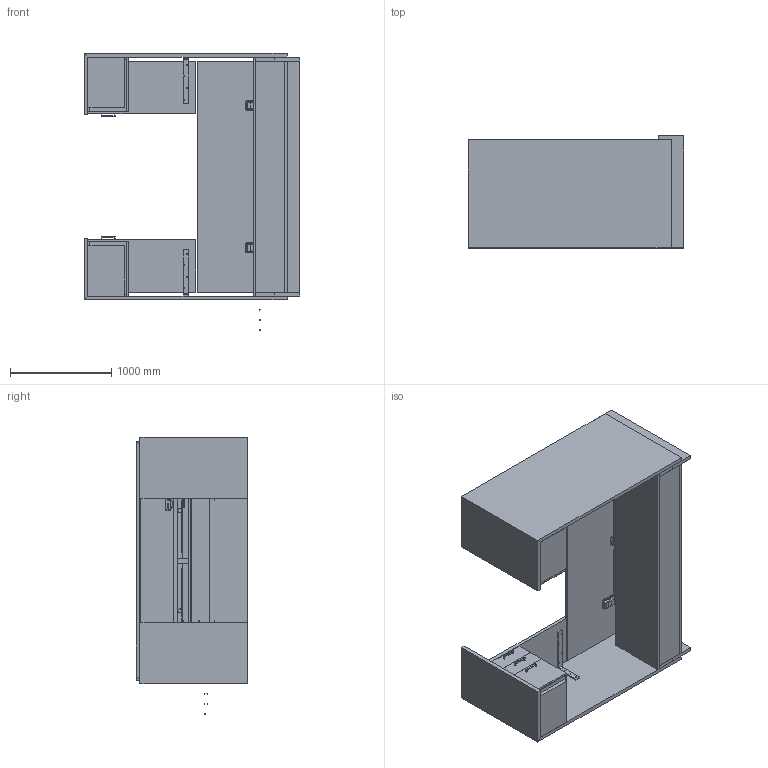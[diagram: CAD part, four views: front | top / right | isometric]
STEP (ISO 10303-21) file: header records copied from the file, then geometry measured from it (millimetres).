
FILE_DESCRIPTION(/* description */ ('','CAx-IF Rec.Pracs.---Representation and Presentation of Product Manufacturing Information (PMI)---4.0---2014-10-13'),/* implementation_level */ '2;1');
FILE_NAME(/* name */ 'WORKSTATION_FOUNDATION 2.stp',/* time_stamp */ '2024-12-08T10:30:24-05:00',/* author */ ('mbowman'),/* organization */ (''),/* preprocessor_version */ 'ST-DEVELOPER v19.2',/* originating_system */ 'Autodesk Inventor 2023',/* authorisation */ '');
FILE_SCHEMA (('AP242_MANAGED_MODEL_BASED_3D_ENGINEERING_MIM_LF { 1 0 10303 442 1 1 4 }'));
Products named in the file (26): FOUNDATION^OPEN OFFICE 1_LIFT TOP-SOLID ASSEMBLY; FOUNDATION^OPEN OFFICE 1_43.5x93 FRONT TRANSACTION-PARTS SOLID; FOUNDATION^OPEN OFFICE 1_42x79x24 RIGHT GALLERY WALL-PARTS SOLID; FOUNDATION^OPEN OFFICE 1_42x79x24 LEFT GALLERY WALL-PARTS SOLID; FOUNDATION^OPEN OFFICE 1_12x29x93 WIRE WALL-PARTS SOLID; FOUNDATION^OPEN OFFICE 1_12.94x89.94-TACKBOARD; FOUNDATION^PEDESTAL_LETTER BBF 22D-SOLID ASSEMBLY; FOUNDATION^PEDESTAL_LETTER BBF 22D-PARTS SOLID; FOUNDATION^PEDESTAL_LETTER FF 22D-SOLID ASSEMBLY; FOUNDATION^PEDESTAL_LETTER FF 22D-PARTS SOLID; SCHWINN 22334 PULL; FOUNDATION^PEDESTAL_PLINTH-14.25x21.5; dl5nc_without_bracket_STEP; dl5nc_without_bracket_STEP_1; DL5NC_OP; STANDART_MOTORHUS1_DL5; FOUNDATION^WORKSURFACES_LIFT TOP-90x28.5; FOUNDATION^WORKSURFACES_FIXED RETURN TOP-42x20.5; CANTILEVER BRACKET-10x18; FOUNDATION^WORKSURFACES_OPEN OFFICE 1-59in; CLAMP ON PWR WITH DATA; ASHLEY 202-2PWR 2 DATA; DESK POWER UNIT BRKT; DESK POWER UNIT; DESK POWER UNIT BRKT BOLTS; H-MP-TUBE1
Assembly tree (35 placements, depth 3):
  FOUNDATION^OPEN OFFICE 1_LIFT TOP-SOLID ASSEMBLY
    FOUNDATION^OPEN OFFICE 1_43.5x93 FRONT TRANSACTION-PARTS SOLID
    FOUNDATION^OPEN OFFICE 1_42x79x24 RIGHT GALLERY WALL-PARTS SOLID
    FOUNDATION^OPEN OFFICE 1_42x79x24 LEFT GALLERY WALL-PARTS SOLID
    FOUNDATION^OPEN OFFICE 1_12x29x93 WIRE WALL-PARTS SOLID
    FOUNDATION^OPEN OFFICE 1_12.94x89.94-TACKBOARD
    FOUNDATION^PEDESTAL_LETTER BBF 22D-SOLID ASSEMBLY
      FOUNDATION^PEDESTAL_LETTER BBF 22D-PARTS SOLID
      SCHWINN 22334 PULL  x3
    FOUNDATION^PEDESTAL_LETTER FF 22D-SOLID ASSEMBLY
      FOUNDATION^PEDESTAL_LETTER FF 22D-PARTS SOLID
      SCHWINN 22334 PULL  x2
    FOUNDATION^PEDESTAL_PLINTH-14.25x21.5  x2
    dl5nc_without_bracket_STEP
      DL5NC_OP
      STANDART_MOTORHUS1_DL5
    dl5nc_without_bracket_STEP_1
      DL5NC_OP
      STANDART_MOTORHUS1_DL5
    FOUNDATION^WORKSURFACES_LIFT TOP-90x28.5
    FOUNDATION^WORKSURFACES_FIXED RETURN TOP-42x20.5  x2
    CANTILEVER BRACKET-10x18  x2
    FOUNDATION^WORKSURFACES_OPEN OFFICE 1-59in
    CLAMP ON PWR WITH DATA
      ASHLEY 202-2PWR 2 DATA
      DESK POWER UNIT BRKT BOLTS  x2
      DESK POWER UNIT BRKT
      DESK POWER UNIT
    H-MP-TUBE1
Bounding box: 2133.6 x 1104.9 x 2741.68 mm (x, y, z)
Volume: 604283052.8 mm3; surface area: 44247111 mm2
Topology: 57 solids, 97 shells, 2900 faces, 7410 edges, 4718 vertices
Faces by surface type: plane 1683, cylinder 980, torus 95, bspline 76, cone 40, sphere 26
Full cylindrical faces by diameter (mm): 3.683 x10, 4.6 x4, 4.762 x4, 4.978 x2, 5 x20, 5.3 x12, 5.5 x4, 6.35 x12, 7.938 x6, 8 x4, 8.202 x40, 8.636 x4, 9.525 x4, 17.272 x2, 25.4 x2, 28.575 x1, 38.1 x4
Entity records: 58913 total; most frequent: CARTESIAN_POINT 14247, DIRECTION 8862, ORIENTED_EDGE 8334, EDGE_CURVE 4167, AXIS2_PLACEMENT_3D 3027, LINE 2808, VECTOR 2808, VERTEX_POINT 2678
